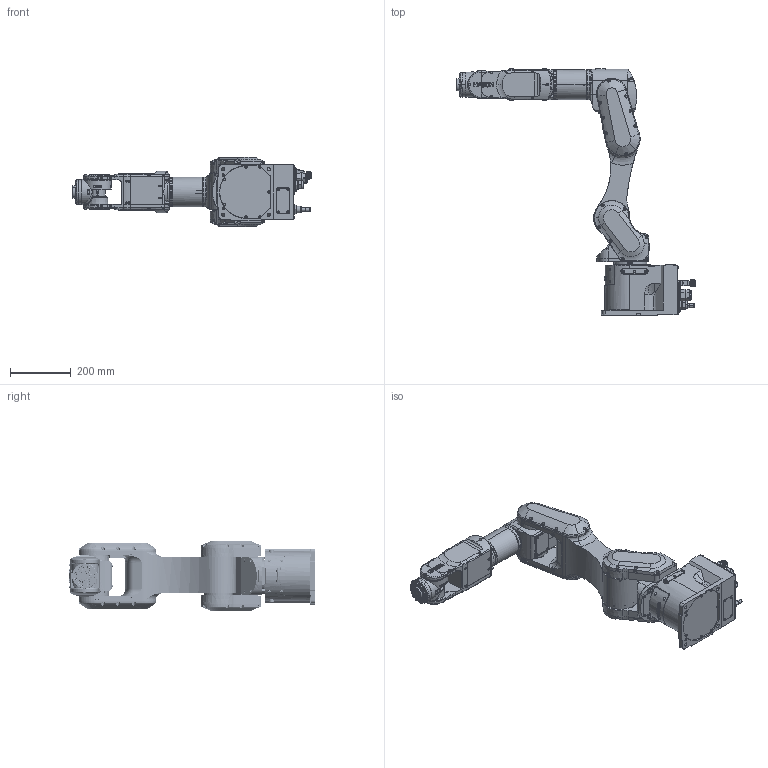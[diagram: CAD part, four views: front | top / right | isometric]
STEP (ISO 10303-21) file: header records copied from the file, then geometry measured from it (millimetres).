
FILE_DESCRIPTION (( 'STEP AP214' ), '1' );
FILE_NAME ('CX7-x901PN.STEP', '2026-07-27T17:56:14', ( '' ), ( '' ), 'SwSTEP 2.0', 'SolidWorks 2020', '' );
FILE_SCHEMA (( 'AUTOMOTIVE_DESIGN' ));
Length unit declared in the file: millimetre
Products named in the file (8): CX7-A901P-NIW_J3; CX7-A901P-NIW_J4; CX7-A901P-NIW_J5; CX7-A901P-NIW_BASE; CX7-A901P-NIW_J1; CX7-x901PN; CX7-A901P-NIW_J2; CX7-A901P-NIW_J6
Assembly tree (7 placements, depth 2):
  CX7-x901PN
    CX7-A901P-NIW_BASE
    CX7-A901P-NIW_J1
    CX7-A901P-NIW_J2
    CX7-A901P-NIW_J3
    CX7-A901P-NIW_J4
    CX7-A901P-NIW_J5
    CX7-A901P-NIW_J6
Bounding box: 787 x 812 x 228 mm (x, y, z)
Volume: 8806324.8 mm3; surface area: 1204693.1 mm2
Topology: 4 solids, 8 shells, 4186 faces, 10380 edges, 6454 vertices
Faces by surface type: plane 1528, cylinder 1334, cone 881, torus 369, bspline 45, sphere 29
Entity records: 190074 total; most frequent: CARTESIAN_POINT 82013, ORIENTED_EDGE 20448, DIRECTION 13865, EDGE_CURVE 10230, B_SPLINE_CURVE_WITH_KNOTS 6596, VERTEX_POINT 6454, AXIS2_PLACEMENT_3D 6100, EDGE_LOOP 4603
